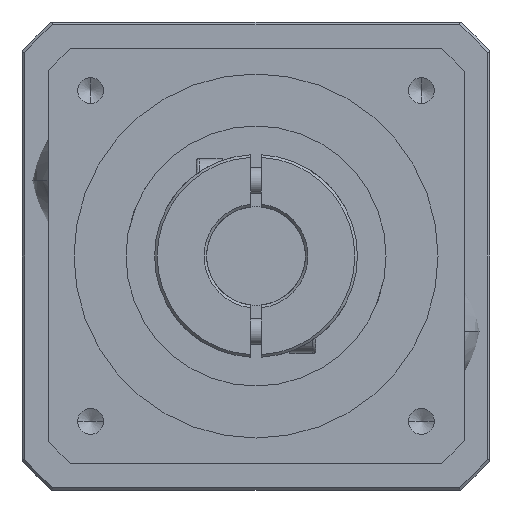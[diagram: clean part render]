
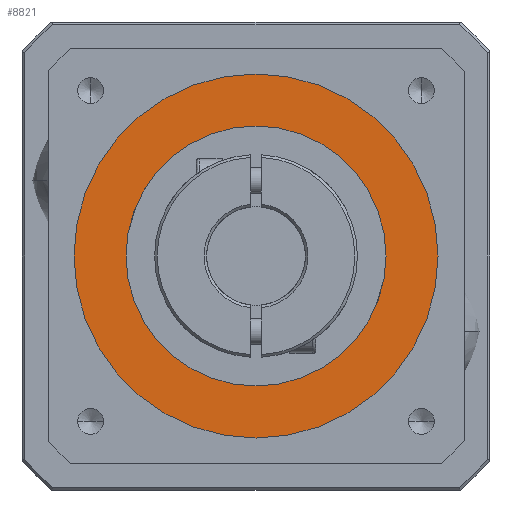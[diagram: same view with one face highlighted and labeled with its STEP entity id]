
A CAD part, left-side view. The second image highlights one B-rep face of the part: STEP entity #8821.
In plain terms, the highlighted planar face has unit normal (-1, 0, 0) as drawn and (0, 0, 1) by its records, which use the part's own axes.
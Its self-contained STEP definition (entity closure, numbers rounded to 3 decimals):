
#443 = EDGE_LOOP ( 'NONE', ( #11681, #12529 ) ) ;
#470 = CARTESIAN_POINT ( 'NONE',  ( 0., 0., 33.5 ) ) ;
#599 = VERTEX_POINT ( 'NONE', #4103 ) ;
#754 = EDGE_CURVE ( 'NONE', #8577, #599, #12663, .T. ) ;
#1799 = AXIS2_PLACEMENT_3D ( 'NONE', #3453, #5453, #7478 ) ;
#2666 = CIRCLE ( 'NONE', #12883, 25. ) ;
#2692 = CIRCLE ( 'NONE', #8107, 25. ) ;
#2863 = DIRECTION ( 'NONE',  ( 1., 0., 0. ) ) ;
#3296 = PLANE ( 'NONE',  #12757 ) ;
#3303 = VERTEX_POINT ( 'NONE', #8112 ) ;
#3347 = VERTEX_POINT ( 'NONE', #5164 ) ;
#3382 = DIRECTION ( 'NONE',  ( 1., 0., 0. ) ) ;
#3425 = DIRECTION ( 'NONE',  ( 0., 0., 1. ) ) ;
#3453 = CARTESIAN_POINT ( 'NONE',  ( 0., 0., 33.5 ) ) ;
#3536 = DIRECTION ( 'NONE',  ( 1., 0., 0. ) ) ;
#3861 = FACE_OUTER_BOUND ( 'NONE', #7607, .T. ) ;
#4103 = CARTESIAN_POINT ( 'NONE',  ( -35., 0., 33.5 ) ) ;
#4665 = EDGE_CURVE ( 'NONE', #599, #8577, #4948, .T. ) ;
#4844 = CARTESIAN_POINT ( 'NONE',  ( 0., 0., 33.5 ) ) ;
#4948 = CIRCLE ( 'NONE', #6923, 35. ) ;
#5164 = CARTESIAN_POINT ( 'NONE',  ( -25., 0., 33.5 ) ) ;
#5453 = DIRECTION ( 'NONE',  ( 0., 0., 1. ) ) ;
#6449 = DIRECTION ( 'NONE',  ( 0., 0., -1. ) ) ;
#6514 = ORIENTED_EDGE ( 'NONE', *, *, #4665, .T. ) ;
#6923 = AXIS2_PLACEMENT_3D ( 'NONE', #8457, #3425, #3382 ) ;
#6954 = DIRECTION ( 'NONE',  ( 0., 0., 1. ) ) ;
#7001 = CARTESIAN_POINT ( 'NONE',  ( 0., 0., 33.5 ) ) ;
#7171 = EDGE_CURVE ( 'NONE', #3303, #3347, #2692, .T. ) ;
#7478 = DIRECTION ( 'NONE',  ( 1., 0., 0. ) ) ;
#7607 = EDGE_LOOP ( 'NONE', ( #8110, #6514 ) ) ;
#8107 = AXIS2_PLACEMENT_3D ( 'NONE', #470, #6449, #3536 ) ;
#8110 = ORIENTED_EDGE ( 'NONE', *, *, #754, .T. ) ;
#8112 = CARTESIAN_POINT ( 'NONE',  ( 25., 0., 33.5 ) ) ;
#8330 = DIRECTION ( 'NONE',  ( 1., 0., 0. ) ) ;
#8457 = CARTESIAN_POINT ( 'NONE',  ( 0., 0., 33.5 ) ) ;
#8468 = CARTESIAN_POINT ( 'NONE',  ( 35., 0., 33.5 ) ) ;
#8577 = VERTEX_POINT ( 'NONE', #8468 ) ;
#8821 = ADVANCED_FACE ( 'NONE', ( #3861, #9961 ), #3296, .T. ) ;
#8893 = DIRECTION ( 'NONE',  ( 0., 0., -1. ) ) ;
#9961 = FACE_BOUND ( 'NONE', #443, .T. ) ;
#10903 = EDGE_CURVE ( 'NONE', #3347, #3303, #2666, .T. ) ;
#11681 = ORIENTED_EDGE ( 'NONE', *, *, #7171, .T. ) ;
#12529 = ORIENTED_EDGE ( 'NONE', *, *, #10903, .T. ) ;
#12663 = CIRCLE ( 'NONE', #1799, 35. ) ;
#12757 = AXIS2_PLACEMENT_3D ( 'NONE', #7001, #6954, #8330 ) ;
#12883 = AXIS2_PLACEMENT_3D ( 'NONE', #4844, #8893, #2863 ) ;
